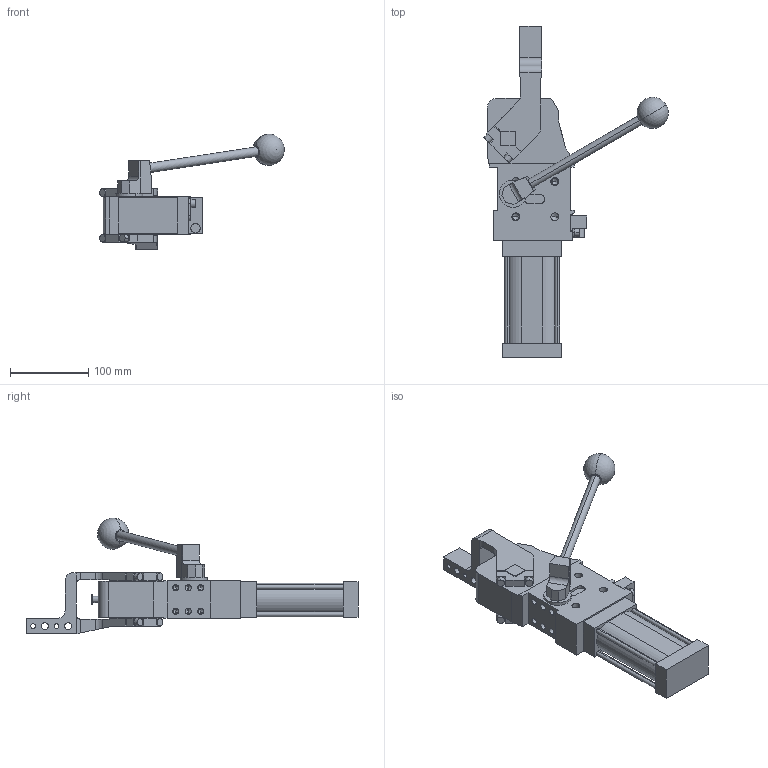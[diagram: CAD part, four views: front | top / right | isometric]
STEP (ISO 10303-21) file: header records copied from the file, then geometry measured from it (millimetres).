
FILE_DESCRIPTION (( 'STEP AP214' ), '1' );
FILE_NAME ('cplm50lah1dsi1g_75.STEP', '2023-01-26T13:16:15', ( '' ), ( '' ), 'SwSTEP 2.0', 'SolidWorks 2022', '' );
FILE_SCHEMA (( 'AUTOMOTIVE_DESIGN' ));
Length unit declared in the file: millimetre
Products named in the file (5): leva_dx_offset_15_cpl50; cplm50lah1dsi1g_75; blocchetto_VEP_0; comando_manuale_cplm_50; meccanica_cplm_50
Assembly tree (4 placements, depth 2):
  cplm50lah1dsi1g_75
    meccanica_cplm_50
    blocchetto_VEP_0
    leva_dx_offset_15_cpl50
    comando_manuale_cplm_50
Bounding box: 236.03 x 424.5 x 148 mm (x, y, z)
Volume: 1469960 mm3; surface area: 181399.7 mm2
Topology: 4 solids, 4 shells, 431 faces, 1108 edges, 691 vertices
Faces by surface type: plane 212, cylinder 167, cone 50, sphere 2
Entity records: 14371 total; most frequent: DIRECTION 2277, CARTESIAN_POINT 2271, ORIENTED_EDGE 2114, EDGE_CURVE 1057, AXIS2_PLACEMENT_3D 792, LINE 693, VECTOR 693, VERTEX_POINT 688
